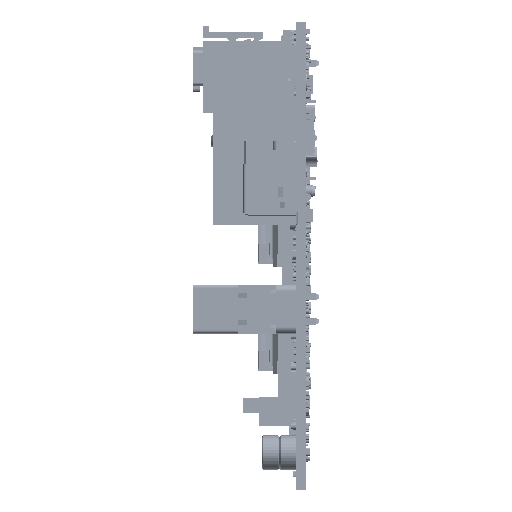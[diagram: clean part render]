
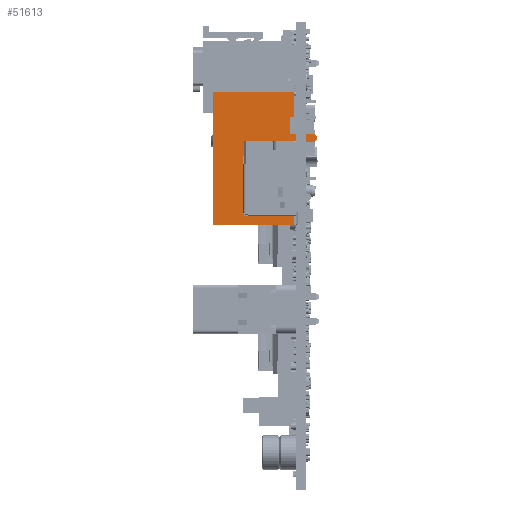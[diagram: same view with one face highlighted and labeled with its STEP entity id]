
A CAD part, left-side view. The second image highlights one B-rep face of the part: STEP entity #51613.
In plain terms, the highlighted planar face has unit normal (-1, 0, 0) as drawn and (1, 0, 0) by its records, which use the part's own axes.
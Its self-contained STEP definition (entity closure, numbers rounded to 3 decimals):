
#46857=DIRECTION('',(0.,-1.,0.));
#46858=VECTOR('',#46857,13.05);
#46859=CARTESIAN_POINT('',(7.88,6.675,0.));
#46860=LINE('',#46859,#46858);
#47017=DIRECTION('',(0.,-1.,0.));
#47018=VECTOR('',#47017,3.1);
#47019=CARTESIAN_POINT('',(7.88,9.775,13.3));
#47020=LINE('',#47019,#47018);
#47021=DIRECTION('',(0.,0.,-1.));
#47022=VECTOR('',#47021,13.3);
#47023=CARTESIAN_POINT('',(7.88,6.675,13.3));
#47024=LINE('',#47023,#47022);
#47025=DIRECTION('',(0.,0.,1.));
#47026=VECTOR('',#47025,21.33);
#47027=CARTESIAN_POINT('',(7.88,-6.375,0.));
#47028=LINE('',#47027,#47026);
#47029=DIRECTION('',(0.,1.,0.));
#47030=VECTOR('',#47029,13.05);
#47031=CARTESIAN_POINT('',(7.88,-6.375,21.33));
#47032=LINE('',#47031,#47030);
#47033=DIRECTION('',(0.,0.,-1.));
#47034=VECTOR('',#47033,6.83);
#47035=CARTESIAN_POINT('',(7.88,6.675,21.33));
#47036=LINE('',#47035,#47034);
#47037=DIRECTION('',(0.,1.,0.));
#47038=VECTOR('',#47037,3.1);
#47039=CARTESIAN_POINT('',(7.88,6.675,14.5));
#47040=LINE('',#47039,#47038);
#47041=CARTESIAN_POINT('',(7.88,9.775,14.));
#47042=DIRECTION('',(-1.,0.,0.));
#47043=DIRECTION('',(0.,0.,1.));
#47044=AXIS2_PLACEMENT_3D('',#47041,#47042,#47043);
#47046=DIRECTION('',(0.,0.,-1.));
#47047=VECTOR('',#47046,0.2);
#47048=CARTESIAN_POINT('',(7.88,10.275,14.));
#47049=LINE('',#47048,#47047);
#47050=CARTESIAN_POINT('',(7.88,9.775,13.8));
#47051=DIRECTION('',(-1.,0.,0.));
#47052=DIRECTION('',(0.,1.,0.));
#47053=AXIS2_PLACEMENT_3D('',#47050,#47051,#47052);
#47055=CARTESIAN_POINT('',(7.88,5.325,2.45));
#47056=DIRECTION('',(1.,0.,0.));
#47057=DIRECTION('',(0.,-1.,0.));
#47058=AXIS2_PLACEMENT_3D('',#47055,#47056,#47057);
#47060=DIRECTION('',(0.,0.,1.));
#47061=VECTOR('',#47060,9.5);
#47062=CARTESIAN_POINT('',(7.88,5.575,2.45));
#47063=LINE('',#47062,#47061);
#47064=CARTESIAN_POINT('',(7.88,5.325,11.95));
#47065=DIRECTION('',(1.,0.,0.));
#47066=DIRECTION('',(0.,1.,0.));
#47067=AXIS2_PLACEMENT_3D('',#47064,#47065,#47066);
#47069=DIRECTION('',(0.,0.,-1.));
#47070=VECTOR('',#47069,9.5);
#47071=CARTESIAN_POINT('',(7.88,5.075,11.95));
#47072=LINE('',#47071,#47070);
#47073=CARTESIAN_POINT('',(7.88,0.125,2.45));
#47074=DIRECTION('',(1.,0.,0.));
#47075=DIRECTION('',(0.,-1.,0.));
#47076=AXIS2_PLACEMENT_3D('',#47073,#47074,#47075);
#47078=DIRECTION('',(0.,0.,1.));
#47079=VECTOR('',#47078,9.5);
#47080=CARTESIAN_POINT('',(7.88,0.375,
2.45));
#47081=LINE('',#47080,#47079);
#47082=CARTESIAN_POINT('',(7.88,0.125,11.95));
#47083=DIRECTION('',(1.,0.,0.));
#47084=DIRECTION('',(0.,1.,0.));
#47085=AXIS2_PLACEMENT_3D('',#47082,#47083,#47084);
#47087=DIRECTION('',(0.,0.,-1.));
#47088=VECTOR('',#47087,9.5);
#47089=CARTESIAN_POINT('',(7.88,-0.125,
11.95));
#47090=LINE('',#47089,#47088);
#50079=CARTESIAN_POINT('',(7.88,6.675,0.));
#50080=CARTESIAN_POINT('',(7.88,-6.375,0.));
#50081=VERTEX_POINT('',#50079);
#50082=VERTEX_POINT('',#50080);
#50155=CARTESIAN_POINT('',(7.88,9.775,13.3));
#50156=CARTESIAN_POINT('',(7.88,6.675,13.3));
#50157=VERTEX_POINT('',#50155);
#50158=VERTEX_POINT('',#50156);
#50159=CARTESIAN_POINT('',(7.88,-6.375,21.33));
#50160=VERTEX_POINT('',#50159);
#50161=CARTESIAN_POINT('',(7.88,6.675,21.33));
#50162=VERTEX_POINT('',#50161);
#50163=CARTESIAN_POINT('',(7.88,6.675,14.5));
#50164=VERTEX_POINT('',#50163);
#50165=CARTESIAN_POINT('',(7.88,9.775,14.5));
#50166=VERTEX_POINT('',#50165);
#50167=CARTESIAN_POINT('',(7.88,10.275,14.));
#50168=VERTEX_POINT('',#50167);
#50169=CARTESIAN_POINT('',(7.88,10.275,13.8));
#50170=VERTEX_POINT('',#50169);
#50171=CARTESIAN_POINT('',(7.88,5.075,2.45));
#50172=CARTESIAN_POINT('',(7.88,5.575,2.45));
#50173=VERTEX_POINT('',#50171);
#50174=VERTEX_POINT('',#50172);
#50175=CARTESIAN_POINT('',(7.88,5.575,11.95));
#50176=VERTEX_POINT('',#50175);
#50177=CARTESIAN_POINT('',(7.88,5.075,11.95));
#50178=VERTEX_POINT('',#50177);
#50179=CARTESIAN_POINT('',(7.88,-0.125,2.45));
#50180=CARTESIAN_POINT('',(7.88,0.375,
2.45));
#50181=VERTEX_POINT('',#50179);
#50182=VERTEX_POINT('',#50180);
#50183=CARTESIAN_POINT('',(7.88,0.375,
11.95));
#50184=VERTEX_POINT('',#50183);
#50185=CARTESIAN_POINT('',(7.88,-0.125,11.95));
#50186=VERTEX_POINT('',#50185);
#51567=CARTESIAN_POINT('',(7.88,0.15,10.665));
#51568=DIRECTION('',(1.,0.,0.));
#51569=DIRECTION('',(0.,-0.707,0.707));
#51570=AXIS2_PLACEMENT_3D('',#51567,#51568,#51569);
#51571=PLANE('',#51570);
#51573=ORIENTED_EDGE('',*,*,#51572,.T.);
#51575=ORIENTED_EDGE('',*,*,#51574,.T.);
#51576=ORIENTED_EDGE('',*,*,#51468,.T.);
#51578=ORIENTED_EDGE('',*,*,#51577,.T.);
#51580=ORIENTED_EDGE('',*,*,#51579,.T.);
#51582=ORIENTED_EDGE('',*,*,#51581,.T.);
#51584=ORIENTED_EDGE('',*,*,#51583,.T.);
#51586=ORIENTED_EDGE('',*,*,#51585,.T.);
#51588=ORIENTED_EDGE('',*,*,#51587,.T.);
#51590=ORIENTED_EDGE('',*,*,#51589,.T.);
#51591=EDGE_LOOP('',(#51573,#51575,#51576,#51578,#51580,#51582,#51584,#51586,
#51588,#51590));
#51592=FACE_OUTER_BOUND('',#51591,.F.);
#51594=ORIENTED_EDGE('',*,*,#51593,.T.);
#51596=ORIENTED_EDGE('',*,*,#51595,.T.);
#51598=ORIENTED_EDGE('',*,*,#51597,.T.);
#51600=ORIENTED_EDGE('',*,*,#51599,.T.);
#51601=EDGE_LOOP('',(#51594,#51596,#51598,#51600));
#51602=FACE_BOUND('',#51601,.F.);
#51604=ORIENTED_EDGE('',*,*,#51603,.T.);
#51606=ORIENTED_EDGE('',*,*,#51605,.T.);
#51608=ORIENTED_EDGE('',*,*,#51607,.T.);
#51610=ORIENTED_EDGE('',*,*,#51609,.T.);
#51611=EDGE_LOOP('',(#51604,#51606,#51608,#51610));
#51612=FACE_BOUND('',#51611,.F.);
#47045=CIRCLE('',#47044,0.5);
#47054=CIRCLE('',#47053,0.5);
#47059=CIRCLE('',#47058,0.25);
#47068=CIRCLE('',#47067,0.25);
#47077=CIRCLE('',#47076,0.25);
#47086=CIRCLE('',#47085,0.25);
#51468=EDGE_CURVE('',#50081,#50082,#46860,.T.);
#51572=EDGE_CURVE('',#50157,#50158,#47020,.T.);
#51574=EDGE_CURVE('',#50158,#50081,#47024,.T.);
#51577=EDGE_CURVE('',#50082,#50160,#47028,.T.);
#51579=EDGE_CURVE('',#50160,#50162,#47032,.T.);
#51581=EDGE_CURVE('',#50162,#50164,#47036,.T.);
#51583=EDGE_CURVE('',#50164,#50166,#47040,.T.);
#51585=EDGE_CURVE('',#50166,#50168,#47045,.T.);
#51587=EDGE_CURVE('',#50168,#50170,#47049,.T.);
#51589=EDGE_CURVE('',#50170,#50157,#47054,.T.);
#51593=EDGE_CURVE('',#50173,#50174,#47059,.T.);
#51595=EDGE_CURVE('',#50174,#50176,#47063,.T.);
#51597=EDGE_CURVE('',#50176,#50178,#47068,.T.);
#51599=EDGE_CURVE('',#50178,#50173,#47072,.T.);
#51603=EDGE_CURVE('',#50181,#50182,#47077,.T.);
#51605=EDGE_CURVE('',#50182,#50184,#47081,.T.);
#51607=EDGE_CURVE('',#50184,#50186,#47086,.T.);
#51609=EDGE_CURVE('',#50186,#50181,#47090,.T.);
#51613=ADVANCED_FACE('',(#51592,#51602,#51612),#51571,.T.);
